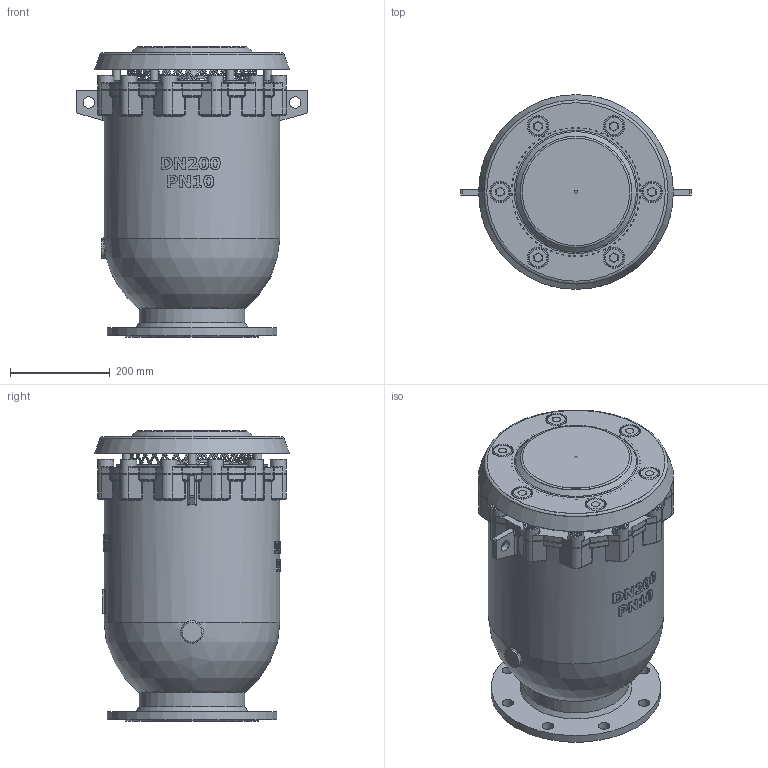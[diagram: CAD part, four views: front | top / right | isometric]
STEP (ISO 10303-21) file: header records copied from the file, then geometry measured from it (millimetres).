
FILE_DESCRIPTION(('STEP AP242'), '1');
FILE_NAME('Âîçäóøíûé êëàïàí DUOJET KX', '', ('UNSPECIFIED'), ('UNSPECIFIED'), 'C3D Converter', 'C3D Toolkit', '');
FILE_SCHEMA(('AP242_MANAGED_MODEL_BASED_3D_ENGINEERING_MIM_LF { 1 0 10303 442 1 1 4 }'));
Length unit declared in the file: millimetre
Assembly tree (45 placements, depth 2):
  (unnamed)
    (unnamed)
    (unnamed)
    (unnamed)
    (unnamed)
    (unnamed)
    (unnamed)
    (unnamed)  x6
    (unnamed)  x6
    (unnamed)
    (unnamed)
    (unnamed)
    (unnamed)  x5
    (unnamed)  x7
    (unnamed)  x6
    (unnamed)  x6
Bounding box: 462 x 390 x 582 mm (x, y, z)
Volume: 8735064.3 mm3; surface area: 3670549.5 mm2
Topology: 59 solids, 60 shells, 2064 faces, 5295 edges, 3401 vertices
Faces by surface type: plane 728, cylinder 504, bspline 495, extrusion 135, torus 107, cone 82, sphere 13
Full cylindrical faces by diameter (mm): 6 x3, 9 x2, 10 x18, 10.5 x6, 11 x12, 12 x6, 16 x54, 22.883 x2, 23 x8, 24 x12, 25.6 x12, 30 x6, 32 x12, 40 x1, 41.117 x1, 50 x2, 56 x1, 200 x2, 212 x1, 256 x2, 258 x1, 265 x2, 271 x1, 288 x1, 292 x2, 304 x2, 338 x2, 340 x4, 352 x1
Entity records: 144248 total; most frequent: CARTESIAN_POINT 101676, ORIENTED_EDGE 8678, DIRECTION 6199, EDGE_CURVE 4339, VERTEX_POINT 2912, AXIS2_PLACEMENT_3D 2395, EDGE_LOOP 2185, B_SPLINE_CURVE_WITH_KNOTS 1910
